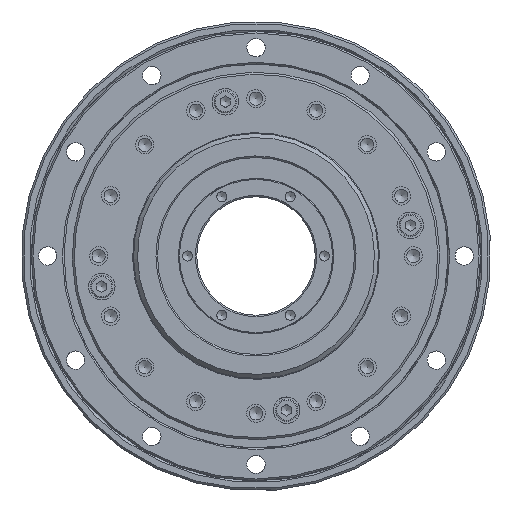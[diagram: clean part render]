
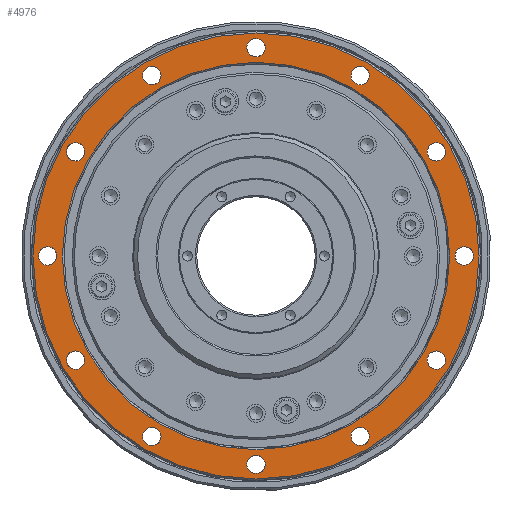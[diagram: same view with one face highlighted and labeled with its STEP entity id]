
A CAD part, left-side view. The second image highlights one B-rep face of the part: STEP entity #4976.
In plain terms, the highlighted planar face has unit normal (-1, 0, 0).
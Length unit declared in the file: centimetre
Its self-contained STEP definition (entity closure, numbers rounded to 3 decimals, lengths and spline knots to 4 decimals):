
#483=PLANE($,#5670);
#841=FACE_BOUND($,#1842,.T.);
#842=FACE_BOUND($,#1843,.T.);
#843=FACE_BOUND($,#1844,.T.);
#844=FACE_BOUND($,#1845,.T.);
#845=FACE_BOUND($,#1846,.T.);
#846=FACE_BOUND($,#1847,.T.);
#847=FACE_BOUND($,#1848,.T.);
#848=FACE_BOUND($,#1849,.T.);
#849=FACE_BOUND($,#1850,.T.);
#850=FACE_BOUND($,#1851,.T.);
#851=FACE_BOUND($,#1852,.T.);
#852=FACE_BOUND($,#1853,.T.);
#853=FACE_BOUND($,#1854,.T.);
#854=FACE_BOUND($,#1855,.T.);
#1842=EDGE_LOOP($,(#4046));
#1843=EDGE_LOOP($,(#4047));
#1844=EDGE_LOOP($,(#4048));
#1845=EDGE_LOOP($,(#4049));
#1846=EDGE_LOOP($,(#4050));
#1847=EDGE_LOOP($,(#4051));
#1848=EDGE_LOOP($,(#4052));
#1849=EDGE_LOOP($,(#4053));
#1850=EDGE_LOOP($,(#4054));
#1851=EDGE_LOOP($,(#4055));
#1852=EDGE_LOOP($,(#4056));
#1853=EDGE_LOOP($,(#4057));
#1854=EDGE_LOOP($,(#4058));
#1855=EDGE_LOOP($,(#4059));
#2311=CIRCLE($,#5634,0.225);
#2313=CIRCLE($,#5637,0.225);
#2315=CIRCLE($,#5640,0.225);
#2317=CIRCLE($,#5643,0.225);
#2319=CIRCLE($,#5646,0.225);
#2321=CIRCLE($,#5649,0.225);
#2323=CIRCLE($,#5652,0.225);
#2325=CIRCLE($,#5655,0.225);
#2327=CIRCLE($,#5658,0.225);
#2329=CIRCLE($,#5661,0.225);
#2331=CIRCLE($,#5664,0.225);
#2333=CIRCLE($,#5667,0.225);
#2334=CIRCLE($,#5669,4.74);
#2335=CIRCLE($,#5671,5.46);
#2717=VERTEX_POINT($,#8480);
#2719=VERTEX_POINT($,#8485);
#2721=VERTEX_POINT($,#8490);
#2723=VERTEX_POINT($,#8495);
#2725=VERTEX_POINT($,#8500);
#2727=VERTEX_POINT($,#8505);
#2729=VERTEX_POINT($,#8510);
#2731=VERTEX_POINT($,#8515);
#2733=VERTEX_POINT($,#8520);
#2735=VERTEX_POINT($,#8525);
#2737=VERTEX_POINT($,#8530);
#2739=VERTEX_POINT($,#8535);
#2740=VERTEX_POINT($,#8538);
#2741=VERTEX_POINT($,#8541);
#3197=EDGE_CURVE($,#2717,#2717,#2311,.T.);
#3199=EDGE_CURVE($,#2719,#2719,#2313,.T.);
#3201=EDGE_CURVE($,#2721,#2721,#2315,.T.);
#3203=EDGE_CURVE($,#2723,#2723,#2317,.T.);
#3205=EDGE_CURVE($,#2725,#2725,#2319,.T.);
#3207=EDGE_CURVE($,#2727,#2727,#2321,.T.);
#3209=EDGE_CURVE($,#2729,#2729,#2323,.T.);
#3211=EDGE_CURVE($,#2731,#2731,#2325,.T.);
#3213=EDGE_CURVE($,#2733,#2733,#2327,.T.);
#3215=EDGE_CURVE($,#2735,#2735,#2329,.T.);
#3217=EDGE_CURVE($,#2737,#2737,#2331,.T.);
#3219=EDGE_CURVE($,#2739,#2739,#2333,.T.);
#3220=EDGE_CURVE($,#2740,#2740,#2334,.T.);
#3221=EDGE_CURVE($,#2741,#2741,#2335,.T.);
#4046=ORIENTED_EDGE($,*,*,#3197,.T.);
#4047=ORIENTED_EDGE($,*,*,#3199,.T.);
#4048=ORIENTED_EDGE($,*,*,#3201,.T.);
#4049=ORIENTED_EDGE($,*,*,#3203,.T.);
#4050=ORIENTED_EDGE($,*,*,#3205,.T.);
#4051=ORIENTED_EDGE($,*,*,#3207,.T.);
#4052=ORIENTED_EDGE($,*,*,#3209,.T.);
#4053=ORIENTED_EDGE($,*,*,#3211,.T.);
#4054=ORIENTED_EDGE($,*,*,#3213,.T.);
#4055=ORIENTED_EDGE($,*,*,#3215,.T.);
#4056=ORIENTED_EDGE($,*,*,#3217,.T.);
#4057=ORIENTED_EDGE($,*,*,#3219,.T.);
#4058=ORIENTED_EDGE($,*,*,#3221,.F.);
#4059=ORIENTED_EDGE($,*,*,#3220,.F.);
#4976=ADVANCED_FACE($,(#841,#842,#843,#844,#845,#846,#847,#848,#849,#850,
#851,#852,#853,#854),#483,.T.);
#5634=AXIS2_PLACEMENT_3D($,#8481,#6963,#6964);
#5637=AXIS2_PLACEMENT_3D($,#8486,#6969,#6970);
#5640=AXIS2_PLACEMENT_3D($,#8491,#6975,#6976);
#5643=AXIS2_PLACEMENT_3D($,#8496,#6981,#6982);
#5646=AXIS2_PLACEMENT_3D($,#8501,#6987,#6988);
#5649=AXIS2_PLACEMENT_3D($,#8506,#6993,#6994);
#5652=AXIS2_PLACEMENT_3D($,#8511,#6999,#7000);
#5655=AXIS2_PLACEMENT_3D($,#8516,#7005,#7006);
#5658=AXIS2_PLACEMENT_3D($,#8521,#7011,#7012);
#5661=AXIS2_PLACEMENT_3D($,#8526,#7017,#7018);
#5664=AXIS2_PLACEMENT_3D($,#8531,#7023,#7024);
#5667=AXIS2_PLACEMENT_3D($,#8536,#7029,#7030);
#5669=AXIS2_PLACEMENT_3D($,#8539,#7033,#7034);
#5670=AXIS2_PLACEMENT_3D($,#8540,#7035,#7036);
#5671=AXIS2_PLACEMENT_3D($,#8542,#7037,#7038);
#6963=DIRECTION('center_axis',(1.,0.,0.));
#6964=DIRECTION('ref_axis',(0.,0.,-1.));
#6969=DIRECTION('center_axis',(1.,0.,0.));
#6970=DIRECTION('ref_axis',(0.,0.,-1.));
#6975=DIRECTION('center_axis',(1.,0.,0.));
#6976=DIRECTION('ref_axis',(0.,0.,-1.));
#6981=DIRECTION('center_axis',(1.,0.,0.));
#6982=DIRECTION('ref_axis',(0.,0.,-1.));
#6987=DIRECTION('center_axis',(1.,0.,0.));
#6988=DIRECTION('ref_axis',(0.,0.,-1.));
#6993=DIRECTION('center_axis',(1.,0.,0.));
#6994=DIRECTION('ref_axis',(0.,0.,-1.));
#6999=DIRECTION('center_axis',(1.,0.,0.));
#7000=DIRECTION('ref_axis',(0.,0.,-1.));
#7005=DIRECTION('center_axis',(1.,0.,0.));
#7006=DIRECTION('ref_axis',(0.,0.,-1.));
#7011=DIRECTION('center_axis',(1.,0.,0.));
#7012=DIRECTION('ref_axis',(0.,0.,-1.));
#7017=DIRECTION('center_axis',(1.,0.,0.));
#7018=DIRECTION('ref_axis',(0.,0.,-1.));
#7023=DIRECTION('center_axis',(1.,0.,0.));
#7024=DIRECTION('ref_axis',(0.,0.,-1.));
#7029=DIRECTION('center_axis',(1.,0.,0.));
#7030=DIRECTION('ref_axis',(0.,0.,-1.));
#7033=DIRECTION('center_axis',(-1.,0.,0.));
#7034=DIRECTION('ref_axis',(0.,0.,-1.));
#7035=DIRECTION('center_axis',(-1.,0.,0.));
#7036=DIRECTION('ref_axis',(0.,0.,1.));
#7037=DIRECTION('center_axis',(1.,0.,0.));
#7038=DIRECTION('ref_axis',(0.,0.,-1.));
#8480=CARTESIAN_POINT('',(-1.87,-4.4167,-2.325));
#8481=CARTESIAN_POINT('Origin',(-1.87,-4.4167,-2.55));
#8485=CARTESIAN_POINT('',(-1.87,-4.4167,2.775));
#8486=CARTESIAN_POINT('Origin',(-1.87,-4.4167,2.55));
#8490=CARTESIAN_POINT('',(-1.87,0.,5.325));
#8491=CARTESIAN_POINT('Origin',(-1.87,0.,5.1));
#8495=CARTESIAN_POINT('',(-1.87,4.4167,2.775));
#8496=CARTESIAN_POINT('Origin',(-1.87,4.4167,2.55));
#8500=CARTESIAN_POINT('',(-1.87,4.4167,-2.325));
#8501=CARTESIAN_POINT('Origin',(-1.87,4.4167,-2.55));
#8505=CARTESIAN_POINT('',(-1.87,0.,-4.875));
#8506=CARTESIAN_POINT('Origin',(-1.87,0.,-5.1));
#8510=CARTESIAN_POINT('',(-1.87,2.55,-4.1917));
#8511=CARTESIAN_POINT('Origin',(-1.87,2.55,-4.4167));
#8515=CARTESIAN_POINT('',(-1.87,5.1,0.225));
#8516=CARTESIAN_POINT('Origin',(-1.87,5.1,0.));
#8520=CARTESIAN_POINT('',(-1.87,2.55,4.6417));
#8521=CARTESIAN_POINT('Origin',(-1.87,2.55,4.4167));
#8525=CARTESIAN_POINT('',(-1.87,-2.55,4.6417));
#8526=CARTESIAN_POINT('Origin',(-1.87,-2.55,4.4167));
#8530=CARTESIAN_POINT('',(-1.87,-5.1,0.225));
#8531=CARTESIAN_POINT('Origin',(-1.87,-5.1,0.));
#8535=CARTESIAN_POINT('',(-1.87,-2.55,-4.1917));
#8536=CARTESIAN_POINT('Origin',(-1.87,-2.55,-4.4167));
#8538=CARTESIAN_POINT('',(-1.87,0.,4.74));
#8539=CARTESIAN_POINT('Origin',(-1.87,0.,0.));
#8540=CARTESIAN_POINT('Origin',(-1.87,0.,4.7));
#8541=CARTESIAN_POINT('',(-1.87,0.,5.46));
#8542=CARTESIAN_POINT('Origin',(-1.87,0.,0.));
